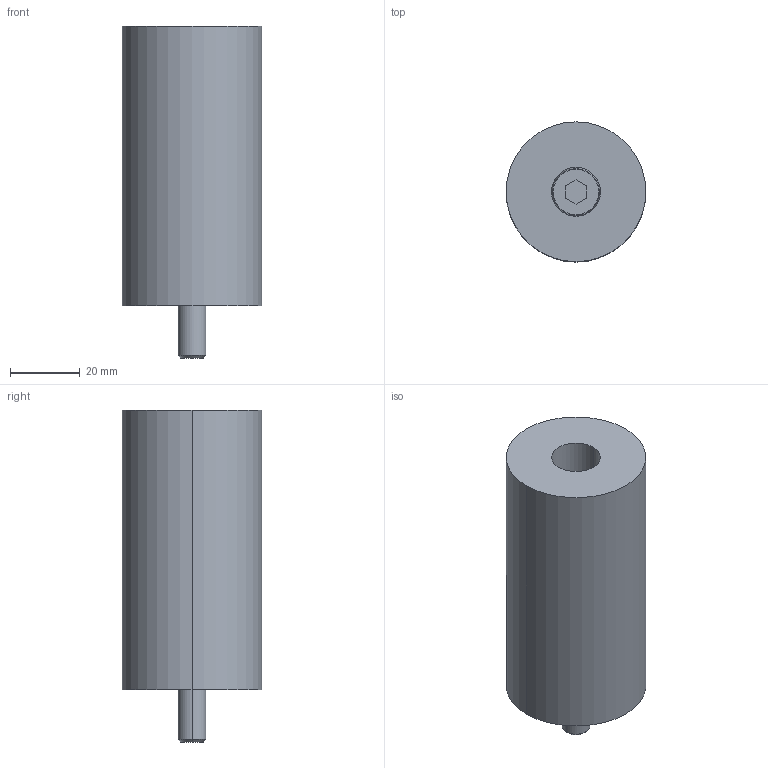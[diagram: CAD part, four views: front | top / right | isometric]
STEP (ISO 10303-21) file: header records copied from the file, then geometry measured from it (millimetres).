
FILE_DESCRIPTION(/* description */ (''),/* implementation_level */ '2;1');
FILE_NAME(/* name */ '3d_esbt40-80_06994_r00.stp',/* time_stamp */ '2011-01-10T14:15:40+09:00',/* author */ ('MISUMI'),/* organization */ (''),/* preprocessor_version */ 'ST-DEVELOPER v11',/* originating_system */ 'UGS - NX 5.0',/* authorisation */ '');
FILE_SCHEMA (('CONFIG_CONTROL_DESIGN'));
Length unit declared in the file: millimetre
Products named in the file (1): 3d_esbt40-80_06994_r00
Bounding box: 40 x 40 x 95 mm (x, y, z)
Volume: 95347.8 mm3; surface area: 20190.7 mm2
Topology: 3 solids, 3 shells, 35 faces, 72 edges, 46 vertices
Faces by surface type: plane 15, cylinder 14, cone 6
Entity records: 1022 total; most frequent: DIRECTION 178, CARTESIAN_POINT 154, ORIENTED_EDGE 144, EDGE_CURVE 72, AXIS2_PLACEMENT_3D 70, VERTEX_POINT 46, EDGE_LOOP 42, LINE 38
